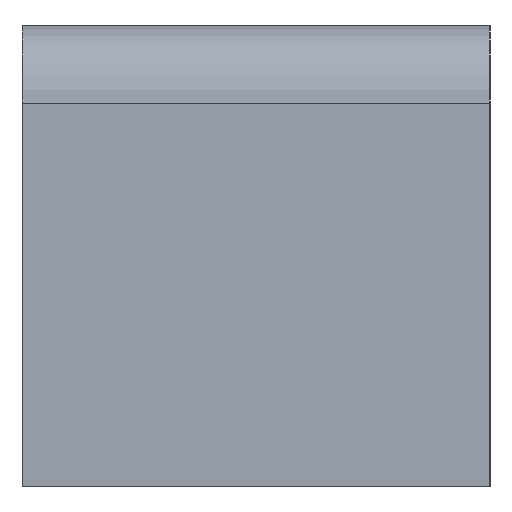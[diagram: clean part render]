
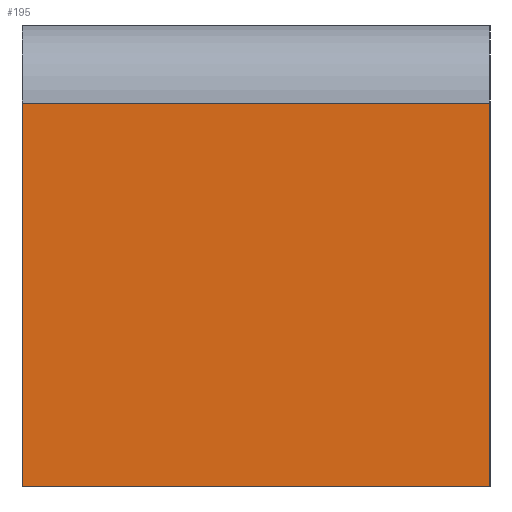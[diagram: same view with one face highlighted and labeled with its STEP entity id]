
A CAD part, left-side view. The second image highlights one B-rep face of the part: STEP entity #195.
In plain terms, the highlighted planar face has unit normal (-1, 0, 0).
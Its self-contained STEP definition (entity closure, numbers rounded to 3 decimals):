
#32 = VERTEX_POINT('',#33);
#33 = CARTESIAN_POINT('',(-33.5,33.5,-2.5));
#40 = EDGE_CURVE('',#32,#41,#43,.T.);
#41 = VERTEX_POINT('',#42);
#42 = CARTESIAN_POINT('',(-33.5,33.5,-14.8));
#43 = LINE('',#44,#45);
#44 = CARTESIAN_POINT('',(-33.5,33.5,0.));
#45 = VECTOR('',#46,1.);
#46 = DIRECTION('',(-0.,-0.,-1.));
#150 = VERTEX_POINT('',#151);
#151 = CARTESIAN_POINT('',(-33.5,18.5,-2.5));
#158 = EDGE_CURVE('',#150,#32,#159,.T.);
#159 = LINE('',#160,#161);
#160 = CARTESIAN_POINT('',(-33.5,18.5,-2.5));
#161 = VECTOR('',#162,1.);
#162 = DIRECTION('',(0.,1.,0.));
#195 = ADVANCED_FACE('',(#196),#214,.F.);
#196 = FACE_BOUND('',#197,.F.);
#197 = EDGE_LOOP('',(#198,#199,#200,#208));
#198 = ORIENTED_EDGE('',*,*,#40,.F.);
#199 = ORIENTED_EDGE('',*,*,#158,.F.);
#200 = ORIENTED_EDGE('',*,*,#201,.T.);
#201 = EDGE_CURVE('',#150,#202,#204,.T.);
#202 = VERTEX_POINT('',#203);
#203 = CARTESIAN_POINT('',(-33.5,18.5,-14.8));
#204 = LINE('',#205,#206);
#205 = CARTESIAN_POINT('',(-33.5,18.5,0.));
#206 = VECTOR('',#207,1.);
#207 = DIRECTION('',(0.,0.,-1.));
#208 = ORIENTED_EDGE('',*,*,#209,.T.);
#209 = EDGE_CURVE('',#202,#41,#210,.T.);
#210 = LINE('',#211,#212);
#211 = CARTESIAN_POINT('',(-33.5,-33.5,-14.8));
#212 = VECTOR('',#213,1.);
#213 = DIRECTION('',(0.,1.,0.));
#214 = PLANE('',#215);
#215 = AXIS2_PLACEMENT_3D('',#216,#217,#218);
#216 = CARTESIAN_POINT('',(-33.5,-33.5,0.));
#217 = DIRECTION('',(1.,0.,0.));
#218 = DIRECTION('',(0.,1.,0.));
